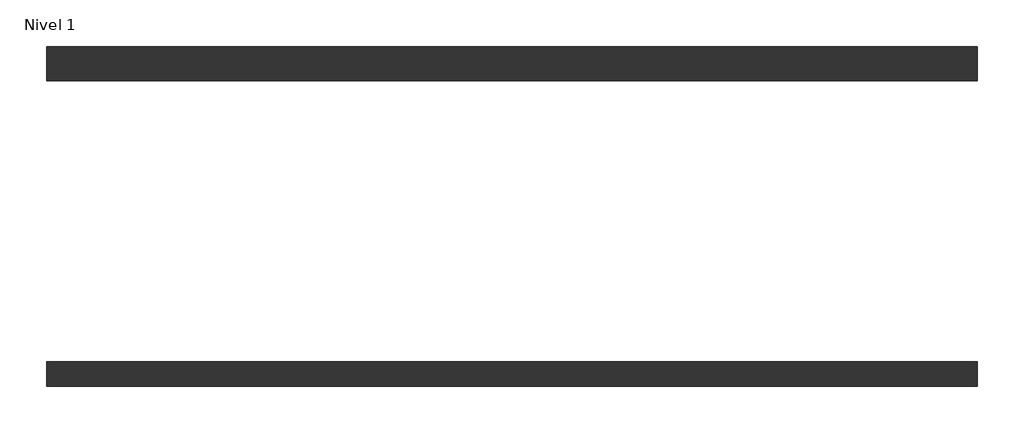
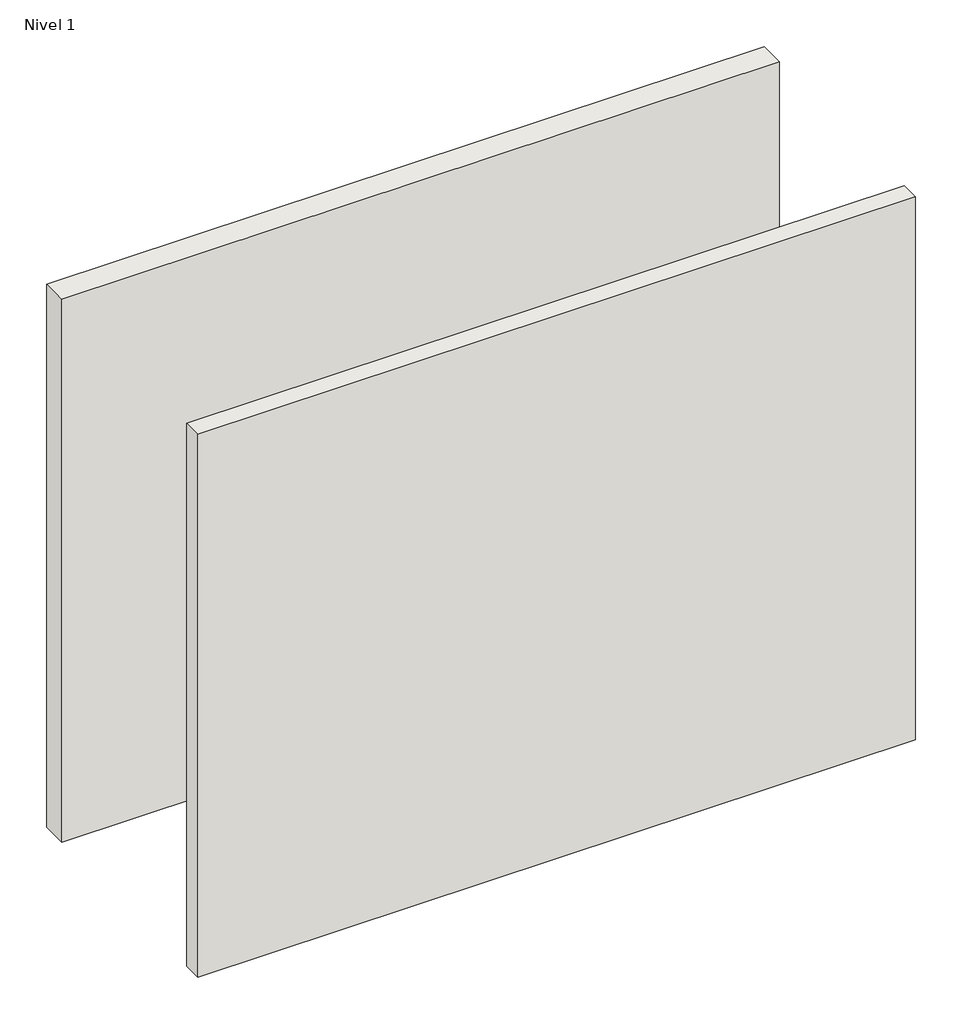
# One storey: 2 walls.
"""IFC4 building model written with IfcOpenShell, lengths in millimetres."""

from ifc_helpers import new_model, si_unit, origin, origin_with_axes, place, context, project, spatial, polyline, outline, extrude, element, save

model = new_model("IFC4")

# Units and contexts
model_context = context("Model", 3, world=origin())
ifc_project = project(units=[si_unit("LENGTHUNIT", "METRE", prefix="MILLI")], contexts=[model_context])

# Site, building, storey
site = spatial("IfcSite", under=ifc_project)
building = spatial("IfcBuilding", under=site)
storey = spatial("IfcBuildingStorey", under=building, Name="Nivel 1", Elevation=0.0)

# Walls
placement = place(None, origin())
element("IfcWall", 1, ObjectType="TBPR - 90", at=placement, inside=storey, context=model_context, shape_type="SweptSolid", body=[
    extrude(outline(polyline([(9963.879298, 13994.6618621), (6963.879298, 13994.6618621), (6963.879298, 14104.6618621), (9963.879298, 14104.6618621), (9963.879298, 13994.6618621)])), origin_with_axes(), (0.0, 0.0, 1.0), 2400.0),
])
element("IfcWall", 2, ObjectType="TBPR - 60", at=placement, inside=storey, context=model_context, shape_type="SweptSolid", body=[
    extrude(outline(polyline([(9963.879298, 13009.6618621), (6963.879298, 13009.6618621), (6963.879298, 13089.6618621), (9963.879298, 13089.6618621), (9963.879298, 13009.6618621)])), origin_with_axes(), (0.0, 0.0, 1.0), 2400.0),
])

save(model, "model.ifc")
